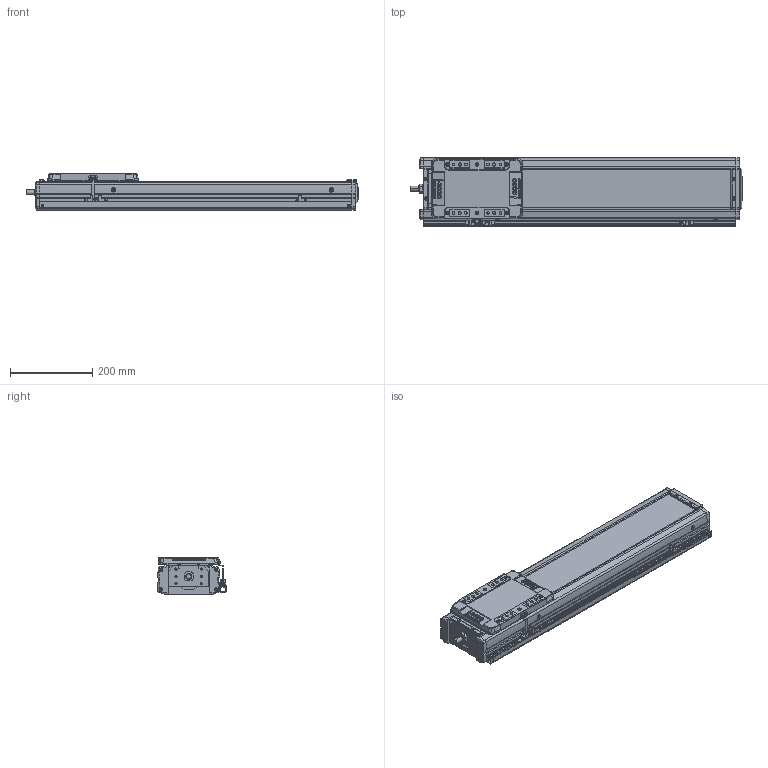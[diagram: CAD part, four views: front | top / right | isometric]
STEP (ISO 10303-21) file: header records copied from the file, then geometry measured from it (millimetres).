
FILE_DESCRIPTION(('STEP AP214'),'1');
FILE_NAME('Z:/Web/3D/SAN150/2013.04 (STP.)/SAN150ㅁㅁ-500+3SR.stp','2013-05-07T11:11:38',(' '),(' '),'Spatial InterOp 3D',' ',' ');
FILE_SCHEMA(('automotive_design'));
Length unit declared in the file: millimetre
Products named in the file (53): SLBL-SAN150; SLCV-SAN150; FHCS M4.0 x 8.0; BHCS M4.0 x 10.0; SFX-SAN150; RRCV-SAN150; FRBL-SAN150; Spacer; RN15; FRCV-SAN150; Screw 20; BASE-SAN150-000L ; SUS COVER; 스크루 : Round - M5.0 x 6.0; M3.0 x 6.0; SRL-16x17-360L; SGD-SAN150; EE-SX674; SBK-SX674-352; 스크루 : Round - M3.0 x 6.0
Bounding box: 808 x 166 x 90 mm (x, y, z)
Volume: 4653014.4 mm3; surface area: 948343 mm2
Topology: 53 solids, 53 shells, 2522 faces, 6513 edges, 4190 vertices
Faces by surface type: plane 1344, cylinder 819, cone 258, sphere 68, bspline 21, torus 12
Entity records: 100023 total; most frequent: CARTESIAN_POINT 15896, DIRECTION 13710, ORIENTED_EDGE 12818, EDGE_CURVE 6409, AXIS2_PLACEMENT_3D 4831, VERTEX_POINT 4190, LINE 4048, VECTOR 4048
